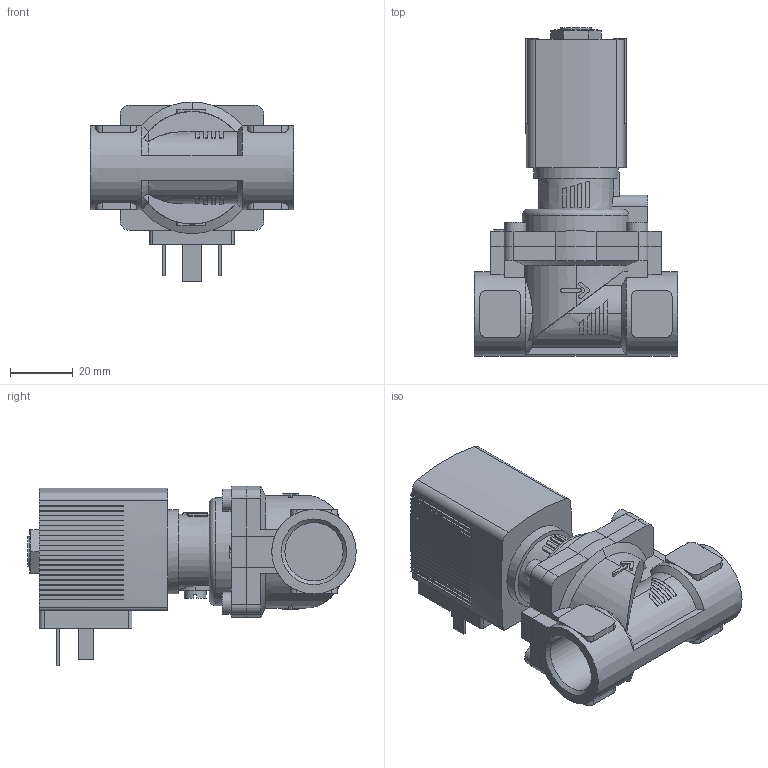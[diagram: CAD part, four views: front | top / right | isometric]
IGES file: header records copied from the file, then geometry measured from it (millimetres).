
Start section: Data from Parasolid IGES Translator 26.0.171, Copyright(c) 2006 Siemens PLM Software. All Rights Reserved.
Global section: file name: 6281-373033-2_2-Way_Solenoid_Valve__Servo-assisted__General_Purpose.igs; native system: By Siemens PLM Incorporated; preprocessor: XPlus GENERIC/IGES 26.0.171; author: Noname; organization: Noname; date: 20240617.164305; units: millimetre
Bounding box: 65 x 105 x 57.5 mm (x, y, z)
Surface area: 30334.3 mm2 (no closed solid volume)
Topology: 0 solids, 0 shells, 576 faces, 3208 edges, 3200 vertices
Faces by surface type: extrusion 446, revolution 130
